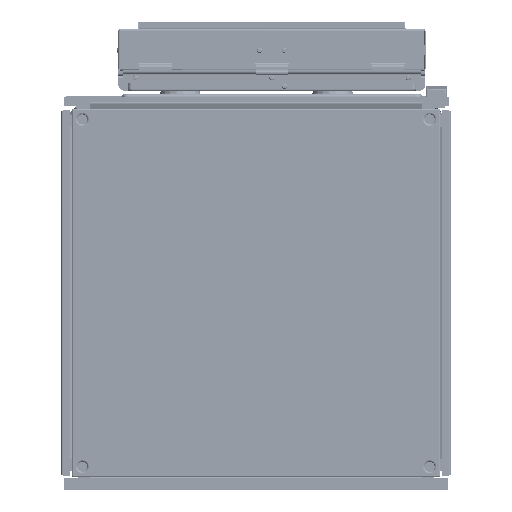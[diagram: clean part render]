
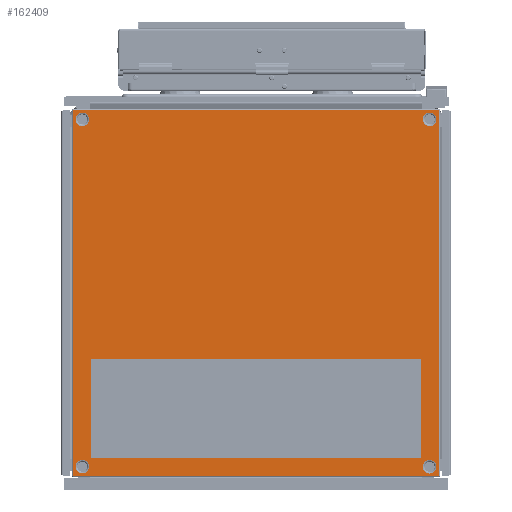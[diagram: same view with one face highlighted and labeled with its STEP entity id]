
A CAD part, front view. The second image highlights one B-rep face of the part: STEP entity #162409.
In plain terms, the highlighted planar face has unit normal (0, -1, 0) as drawn and (0, 1, 0) by its records, which use the part's own axes.
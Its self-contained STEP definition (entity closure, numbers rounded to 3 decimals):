
#159274=DIRECTION('',(1.,0.,0.));
#159275=VECTOR('',#159274,562.5);
#159276=CARTESIAN_POINT('',(-281.25,13.,281.25));
#159277=LINE('',#159276,#159275);
#159541=DIRECTION('',(0.,0.,-1.));
#159542=VECTOR('',#159541,562.5);
#159543=CARTESIAN_POINT('',(281.25,13.,281.25));
#159544=LINE('',#159543,#159542);
#159602=DIRECTION('',(-1.,0.,0.));
#159603=VECTOR('',#159602,562.5);
#159604=CARTESIAN_POINT('',(281.25,13.,-281.25));
#159605=LINE('',#159604,#159603);
#159616=CARTESIAN_POINT('',(267.5,13.,267.5));
#159617=DIRECTION('',(0.,1.,0.));
#159618=DIRECTION('',(1.,0.,-0.011));
#159619=AXIS2_PLACEMENT_3D('',#159616,#159617,#159618);
#159624=CARTESIAN_POINT('',(267.5,13.,267.5));
#159625=DIRECTION('',(0.,1.,0.));
#159626=DIRECTION('',(-1.,0.,0.011));
#159627=AXIS2_PLACEMENT_3D('',#159624,#159625,#159626);
#159632=CARTESIAN_POINT('',(267.5,13.,-267.5));
#159633=DIRECTION('',(0.,1.,0.));
#159634=DIRECTION('',(-1.,0.,0.));
#159635=AXIS2_PLACEMENT_3D('',#159632,#159633,#159634);
#159640=CARTESIAN_POINT('',(277.992,13.,-267.379));
#159641=CARTESIAN_POINT('',(277.993,13.,-267.419));
#159642=CARTESIAN_POINT('',(277.993,13.,-267.46));
#159643=CARTESIAN_POINT('',(277.993,13.,-267.5));
#159648=CARTESIAN_POINT('',(267.5,13.,-267.5));
#159649=DIRECTION('',(0.,1.,0.));
#159650=DIRECTION('',(1.,0.,0.));
#159651=AXIS2_PLACEMENT_3D('',#159648,#159649,#159650);
#159656=CARTESIAN_POINT('',(257.008,13.,-267.621));
#159657=CARTESIAN_POINT('',(257.007,13.,-267.581));
#159658=CARTESIAN_POINT('',(257.007,13.,-267.54));
#159659=CARTESIAN_POINT('',(257.007,13.,-267.5));
#159664=CARTESIAN_POINT('',(-267.5,13.,267.5));
#159665=DIRECTION('',(0.,1.,0.));
#159666=DIRECTION('',(1.,0.,0.));
#159667=AXIS2_PLACEMENT_3D('',#159664,#159665,#159666);
#159672=CARTESIAN_POINT('',(-277.992,13.,267.379));
#159673=CARTESIAN_POINT('',(-277.993,13.,267.419));
#159674=CARTESIAN_POINT('',(-277.993,13.,267.46));
#159675=CARTESIAN_POINT('',(-277.993,13.,267.5));
#159680=CARTESIAN_POINT('',(-267.5,13.,267.5));
#159681=DIRECTION('',(0.,1.,0.));
#159682=DIRECTION('',(-1.,0.,0.));
#159683=AXIS2_PLACEMENT_3D('',#159680,#159681,#159682);
#159688=CARTESIAN_POINT('',(-257.008,13.,267.621));
#159689=CARTESIAN_POINT('',(-257.007,13.,267.581));
#159690=CARTESIAN_POINT('',(-257.007,13.,267.54));
#159691=CARTESIAN_POINT('',(-257.007,13.,267.5));
#159696=CARTESIAN_POINT('',(-267.5,13.,-267.5));
#159697=DIRECTION('',(0.,1.,0.));
#159698=DIRECTION('',(-1.,0.,0.011));
#159699=AXIS2_PLACEMENT_3D('',#159696,#159697,#159698);
#159704=CARTESIAN_POINT('',(-267.5,13.,-267.5));
#159705=DIRECTION('',(0.,1.,0.));
#159706=DIRECTION('',(1.,0.,-0.011));
#159707=AXIS2_PLACEMENT_3D('',#159704,#159705,#159706);
#159719=DIRECTION('',(0.,0.,1.));
#159720=VECTOR('',#159719,562.5);
#159721=CARTESIAN_POINT('',(-281.25,13.,-281.25));
#159722=LINE('',#159721,#159720);
#160648=CARTESIAN_POINT('',(267.5,13.,267.5));
#160649=DIRECTION('',(0.,-1.,0.));
#160650=DIRECTION('',(1.,0.,-0.011));
#160651=AXIS2_PLACEMENT_3D('',#160648,#160649,#160650);
#160680=CARTESIAN_POINT('',(267.5,13.,267.5));
#160681=DIRECTION('',(0.,-1.,0.));
#160682=DIRECTION('',(-1.,0.,0.011));
#160683=AXIS2_PLACEMENT_3D('',#160680,#160681,#160682);
#161206=CARTESIAN_POINT('',(-267.5,13.,-267.5));
#161207=DIRECTION('',(0.,-1.,0.));
#161208=DIRECTION('',(-1.,0.,0.011));
#161209=AXIS2_PLACEMENT_3D('',#161206,#161207,#161208);
#161238=CARTESIAN_POINT('',(-267.5,13.,-267.5));
#161239=DIRECTION('',(0.,-1.,0.));
#161240=DIRECTION('',(1.,0.,-0.011));
#161241=AXIS2_PLACEMENT_3D('',#161238,#161239,#161240);
#161300=DIRECTION('',(1.,0.,0.));
#161301=VECTOR('',#161300,153.);
#161302=CARTESIAN_POINT('',(101.25,13.,-254.25));
#161303=LINE('',#161302,#161301);
#161314=DIRECTION('',(0.,0.,1.));
#161315=VECTOR('',#161314,508.5);
#161316=CARTESIAN_POINT('',(254.25,13.,-254.25));
#161317=LINE('',#161316,#161315);
#161328=DIRECTION('',(-1.,0.,0.));
#161329=VECTOR('',#161328,153.);
#161330=CARTESIAN_POINT('',(254.25,13.,254.25));
#161331=LINE('',#161330,#161329);
#161342=DIRECTION('',(0.,0.,-1.));
#161343=VECTOR('',#161342,508.5);
#161344=CARTESIAN_POINT('',(101.25,13.,254.25));
#161345=LINE('',#161344,#161343);
#161637=CARTESIAN_POINT('',(281.25,13.,281.25));
#161638=VERTEX_POINT('',#161637);
#161642=CARTESIAN_POINT('',(-281.25,13.,281.25));
#161643=VERTEX_POINT('',#161642);
#161679=CARTESIAN_POINT('',(281.25,13.,-281.25));
#161681=VERTEX_POINT('',#161679);
#161691=CARTESIAN_POINT('',(-281.25,13.,-281.25));
#161692=VERTEX_POINT('',#161691);
#161695=CARTESIAN_POINT('',(277.992,13.,267.38));
#161696=CARTESIAN_POINT('',(277.993,13.,267.501));
#161697=VERTEX_POINT('',#161695);
#161698=VERTEX_POINT('',#161696);
#161699=CARTESIAN_POINT('',(257.007,13.,267.499));
#161700=VERTEX_POINT('',#161699);
#161701=CARTESIAN_POINT('',(257.008,13.,267.62));
#161702=VERTEX_POINT('',#161701);
#161703=VERTEX_POINT('',#159640);
#161704=VERTEX_POINT('',#159643);
#161705=CARTESIAN_POINT('',(257.007,13.,-267.499));
#161706=VERTEX_POINT('',#161705);
#161707=VERTEX_POINT('',#159656);
#161708=VERTEX_POINT('',#159672);
#161709=VERTEX_POINT('',#159675);
#161710=CARTESIAN_POINT('',(-257.007,13.,267.499));
#161711=VERTEX_POINT('',#161710);
#161712=VERTEX_POINT('',#159688);
#161713=CARTESIAN_POINT('',(-277.992,13.,-267.38));
#161714=CARTESIAN_POINT('',(-277.993,13.,-267.501));
#161715=VERTEX_POINT('',#161713);
#161716=VERTEX_POINT('',#161714);
#161717=CARTESIAN_POINT('',(-257.007,13.,-267.499));
#161718=VERTEX_POINT('',#161717);
#161719=CARTESIAN_POINT('',(-257.008,13.,-267.62));
#161720=VERTEX_POINT('',#161719);
#161721=CARTESIAN_POINT('',(101.25,13.,-254.25));
#161722=CARTESIAN_POINT('',(254.25,13.,-254.25));
#161723=VERTEX_POINT('',#161721);
#161724=VERTEX_POINT('',#161722);
#161725=CARTESIAN_POINT('',(101.25,13.,254.25));
#161726=VERTEX_POINT('',#161725);
#161727=CARTESIAN_POINT('',(254.25,13.,254.25));
#161728=VERTEX_POINT('',#161727);
#162347=CARTESIAN_POINT('',(281.25,13.,-281.25));
#162348=DIRECTION('',(0.,1.,0.));
#162349=DIRECTION('',(0.,0.,1.));
#162350=AXIS2_PLACEMENT_3D('',#162347,#162348,#162349);
#162351=PLANE('',#162350);
#162352=ORIENTED_EDGE('',*,*,#162338,.F.);
#162353=ORIENTED_EDGE('',*,*,#162307,.F.);
#162354=ORIENTED_EDGE('',*,*,#162039,.F.);
#162356=ORIENTED_EDGE('',*,*,#162355,.F.);
#162357=EDGE_LOOP('',(#162352,#162353,#162354,#162356));
#162358=FACE_OUTER_BOUND('',#162357,.F.);
#162360=ORIENTED_EDGE('',*,*,#162359,.F.);
#162362=ORIENTED_EDGE('',*,*,#162361,.T.);
#162364=ORIENTED_EDGE('',*,*,#162363,.F.);
#162366=ORIENTED_EDGE('',*,*,#162365,.T.);
#162367=EDGE_LOOP('',(#162360,#162362,#162364,#162366));
#162368=FACE_BOUND('',#162367,.F.);
#162370=ORIENTED_EDGE('',*,*,#162369,.T.);
#162372=ORIENTED_EDGE('',*,*,#162371,.T.);
#162374=ORIENTED_EDGE('',*,*,#162373,.T.);
#162376=ORIENTED_EDGE('',*,*,#162375,.T.);
#162377=EDGE_LOOP('',(#162370,#162372,#162374,#162376));
#162378=FACE_BOUND('',#162377,.F.);
#162380=ORIENTED_EDGE('',*,*,#162379,.T.);
#162382=ORIENTED_EDGE('',*,*,#162381,.T.);
#162384=ORIENTED_EDGE('',*,*,#162383,.T.);
#162386=ORIENTED_EDGE('',*,*,#162385,.T.);
#162387=EDGE_LOOP('',(#162380,#162382,#162384,#162386));
#162388=FACE_BOUND('',#162387,.F.);
#162390=ORIENTED_EDGE('',*,*,#162389,.F.);
#162392=ORIENTED_EDGE('',*,*,#162391,.T.);
#162394=ORIENTED_EDGE('',*,*,#162393,.F.);
#162396=ORIENTED_EDGE('',*,*,#162395,.T.);
#162397=EDGE_LOOP('',(#162390,#162392,#162394,#162396));
#162398=FACE_BOUND('',#162397,.F.);
#162400=ORIENTED_EDGE('',*,*,#162399,.F.);
#162402=ORIENTED_EDGE('',*,*,#162401,.F.);
#162404=ORIENTED_EDGE('',*,*,#162403,.F.);
#162406=ORIENTED_EDGE('',*,*,#162405,.F.);
#162407=EDGE_LOOP('',(#162400,#162402,#162404,#162406));
#162408=FACE_BOUND('',#162407,.F.);
#159620=CIRCLE('',#159619,10.493);
#159628=CIRCLE('',#159627,10.493);
#159636=CIRCLE('',#159635,10.493);
#159644=B_SPLINE_CURVE_WITH_KNOTS('',3,(#159640,#159641,#159642,#159643),
.UNSPECIFIED.,.F.,.F.,(4,4),(0.,1.),.UNSPECIFIED.);
#159652=CIRCLE('',#159651,10.493);
#159660=B_SPLINE_CURVE_WITH_KNOTS('',3,(#159656,#159657,#159658,#159659),
.UNSPECIFIED.,.F.,.F.,(4,4),(0.,1.),.UNSPECIFIED.);
#159668=CIRCLE('',#159667,10.493);
#159676=B_SPLINE_CURVE_WITH_KNOTS('',3,(#159672,#159673,#159674,#159675),
.UNSPECIFIED.,.F.,.F.,(4,4),(0.,1.),.UNSPECIFIED.);
#159684=CIRCLE('',#159683,10.493);
#159692=B_SPLINE_CURVE_WITH_KNOTS('',3,(#159688,#159689,#159690,#159691),
.UNSPECIFIED.,.F.,.F.,(4,4),(0.,1.),.UNSPECIFIED.);
#159700=CIRCLE('',#159699,10.493);
#159708=CIRCLE('',#159707,10.493);
#160652=CIRCLE('',#160651,10.493);
#160684=CIRCLE('',#160683,10.493);
#161210=CIRCLE('',#161209,10.493);
#161242=CIRCLE('',#161241,10.493);
#162039=EDGE_CURVE('',#161643,#161638,#159277,.T.);
#162307=EDGE_CURVE('',#161638,#161681,#159544,.T.);
#162338=EDGE_CURVE('',#161681,#161692,#159605,.T.);
#162355=EDGE_CURVE('',#161692,#161643,#159722,.T.);
#162359=EDGE_CURVE('',#161697,#161698,#160652,.T.);
#162361=EDGE_CURVE('',#161697,#161700,#159620,.T.);
#162363=EDGE_CURVE('',#161702,#161700,#160684,.T.);
#162365=EDGE_CURVE('',#161702,#161698,#159628,.T.);
#162369=EDGE_CURVE('',#161706,#161703,#159636,.T.);
#162371=EDGE_CURVE('',#161703,#161704,#159644,.T.);
#162373=EDGE_CURVE('',#161704,#161707,#159652,.T.);
#162375=EDGE_CURVE('',#161707,#161706,#159660,.T.);
#162379=EDGE_CURVE('',#161711,#161708,#159668,.T.);
#162381=EDGE_CURVE('',#161708,#161709,#159676,.T.);
#162383=EDGE_CURVE('',#161709,#161712,#159684,.T.);
#162385=EDGE_CURVE('',#161712,#161711,#159692,.T.);
#162389=EDGE_CURVE('',#161715,#161716,#161210,.T.);
#162391=EDGE_CURVE('',#161715,#161718,#159700,.T.);
#162393=EDGE_CURVE('',#161720,#161718,#161242,.T.);
#162395=EDGE_CURVE('',#161720,#161716,#159708,.T.);
#162399=EDGE_CURVE('',#161723,#161724,#161303,.T.);
#162401=EDGE_CURVE('',#161726,#161723,#161345,.T.);
#162403=EDGE_CURVE('',#161728,#161726,#161331,.T.);
#162405=EDGE_CURVE('',#161724,#161728,#161317,.T.);
#162409=ADVANCED_FACE('',(#162358,#162368,#162378,#162388,#162398,#162408),
#162351,.T.);
